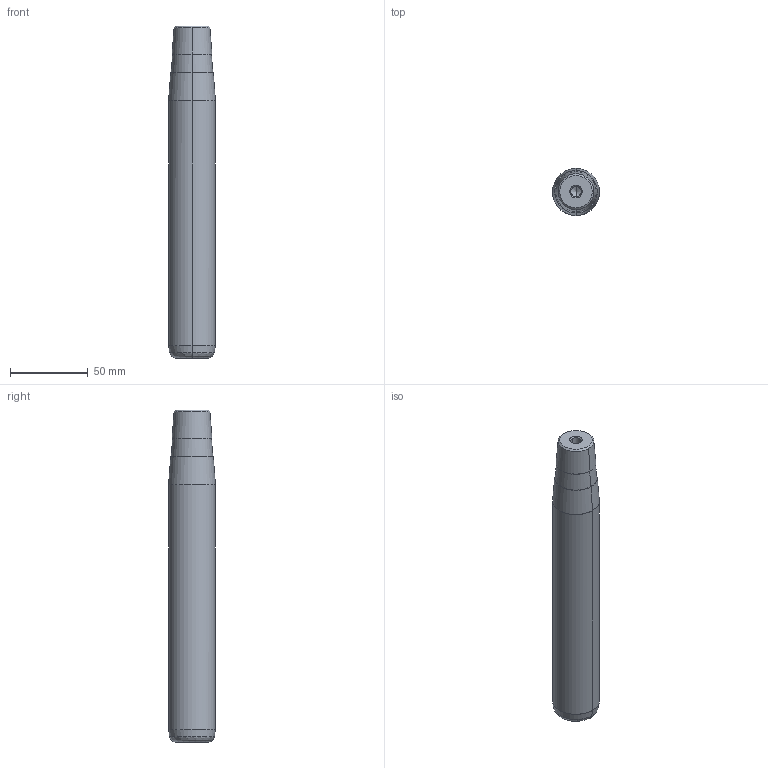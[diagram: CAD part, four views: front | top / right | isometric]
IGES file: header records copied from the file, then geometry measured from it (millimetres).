
Start section: START RECORD GO HERE.
Global section: file name: 722-30x180x213.igs; native system: DASSAULT SYSTEMES CATIA V5 R20 - www.3ds.com; preprocessor: CATIA Version 5 Release 20 ; author: Utente; organization: NB04-ASUS; date: 20210108.171840; units: millimetre
Bounding box: 30 x 30 x 213 mm (x, y, z)
Surface area: 21490.3 mm2 (no closed solid volume)
Topology: 0 solids, 0 shells, 32 faces, 192 edges, 188 vertices
Faces by surface type: revolution 30, plane 2
